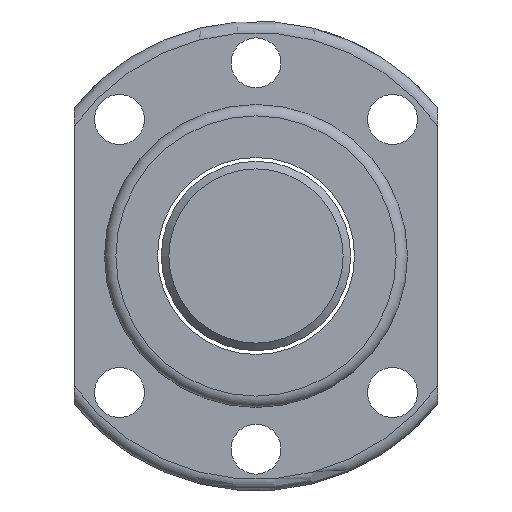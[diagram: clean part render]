
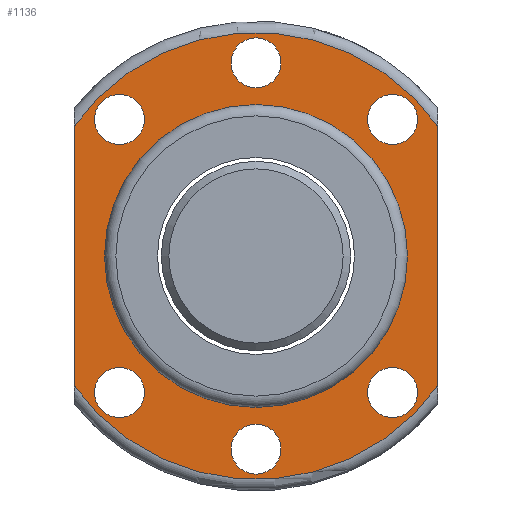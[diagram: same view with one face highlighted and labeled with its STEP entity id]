
A CAD part, left-side view. The second image highlights one B-rep face of the part: STEP entity #1136.
In plain terms, the highlighted planar face has unit normal (-1, 0, 0).
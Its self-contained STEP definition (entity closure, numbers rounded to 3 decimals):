
#23 = DIRECTION ( 'NONE',  ( -1., 0., 0. ) ) ;
#25 = EDGE_CURVE ( 'NONE', #107, #107, #1950, .T. ) ;
#39 = DIRECTION ( 'NONE',  ( -1., 0., 0. ) ) ;
#65 = EDGE_LOOP ( 'NONE', ( #949 ) ) ;
#74 = DIRECTION ( 'NONE',  ( 0., 0., 1. ) ) ;
#80 = DIRECTION ( 'NONE',  ( -1., 0., 0. ) ) ;
#89 = VERTEX_POINT ( 'NONE', #1052 ) ;
#107 = VERTEX_POINT ( 'NONE', #2961 ) ;
#127 = EDGE_CURVE ( 'NONE', #89, #89, #1413, .T. ) ;
#173 = VERTEX_POINT ( 'NONE', #958 ) ;
#182 = CARTESIAN_POINT ( 'NONE',  ( -25., 14.731, 18.031 ) ) ;
#190 = EDGE_CURVE ( 'NONE', #1500, #1500, #2807, .T. ) ;
#219 = AXIS2_PLACEMENT_3D ( 'NONE', #3032, #2287, #2496 ) ;
#225 = ORIENTED_EDGE ( 'NONE', *, *, #127, .F. ) ;
#281 = DIRECTION ( 'NONE',  ( 0., 0., -1. ) ) ;
#300 = ORIENTED_EDGE ( 'NONE', *, *, #2562, .F. ) ;
#317 = EDGE_LOOP ( 'NONE', ( #2686, #1896, #1884, #2736 ) ) ;
#331 = CARTESIAN_POINT ( 'NONE',  ( -25., 0., -25.5 ) ) ;
#349 = DIRECTION ( 'NONE',  ( -1., 0., 0. ) ) ;
#360 = EDGE_CURVE ( 'NONE', #2817, #2817, #2851, .T. ) ;
#374 = AXIS2_PLACEMENT_3D ( 'NONE', #575, #80, #1698 ) ;
#400 = DIRECTION ( 'NONE',  ( 0., -1., 0. ) ) ;
#435 = VERTEX_POINT ( 'NONE', #1125 ) ;
#472 = CIRCLE ( 'NONE', #374, 3.3 ) ;
#500 = CARTESIAN_POINT ( 'NONE',  ( -25., 0., 0. ) ) ;
#518 = VECTOR ( 'NONE', #281, 1000. ) ;
#524 = DIRECTION ( 'NONE',  ( 1., 0., 0. ) ) ;
#549 = DIRECTION ( 'NONE',  ( 0., -1., 0. ) ) ;
#575 = CARTESIAN_POINT ( 'NONE',  ( -25., 0., 25.5 ) ) ;
#590 = EDGE_CURVE ( 'NONE', #173, #866, #2866, .T. ) ;
#613 = AXIS2_PLACEMENT_3D ( 'NONE', #915, #2072, #400 ) ;
#623 = EDGE_CURVE ( 'NONE', #1628, #1196, #2682, .T. ) ;
#626 = AXIS2_PLACEMENT_3D ( 'NONE', #746, #524, #1735 ) ;
#746 = CARTESIAN_POINT ( 'NONE',  ( -25., 0., 0. ) ) ;
#827 = CIRCLE ( 'NONE', #613, 29.5 ) ;
#866 = VERTEX_POINT ( 'NONE', #2161 ) ;
#884 = ORIENTED_EDGE ( 'NONE', *, *, #190, .F. ) ;
#895 = FACE_BOUND ( 'NONE', #2485, .T. ) ;
#908 = FACE_OUTER_BOUND ( 'NONE', #317, .T. ) ;
#911 = EDGE_CURVE ( 'NONE', #3001, #3001, #472, .T. ) ;
#915 = CARTESIAN_POINT ( 'NONE',  ( -25., 0., 0. ) ) ;
#939 = CARTESIAN_POINT ( 'NONE',  ( -25., -3.3, 25.5 ) ) ;
#943 = DIRECTION ( 'NONE',  ( 0., -1., 0. ) ) ;
#949 = ORIENTED_EDGE ( 'NONE', *, *, #360, .F. ) ;
#958 = CARTESIAN_POINT ( 'NONE',  ( -25., -24., 17.154 ) ) ;
#972 = DIRECTION ( 'NONE',  ( -1., 0., 0. ) ) ;
#986 = DIRECTION ( 'NONE',  ( 0., -1., 0. ) ) ;
#1031 = CARTESIAN_POINT ( 'NONE',  ( -25., 24., -17.154 ) ) ;
#1052 = CARTESIAN_POINT ( 'NONE',  ( -25., 14.731, -18.031 ) ) ;
#1071 = AXIS2_PLACEMENT_3D ( 'NONE', #1623, #2349, #943 ) ;
#1110 = CARTESIAN_POINT ( 'NONE',  ( -25., -3.3, -25.5 ) ) ;
#1112 = FACE_BOUND ( 'NONE', #1777, .T. ) ;
#1125 = CARTESIAN_POINT ( 'NONE',  ( -25., -21.331, 18.031 ) ) ;
#1136 = ADVANCED_FACE ( 'NONE', ( #2526, #1112, #895, #1349, #1362, #1551, #1376, #908 ), #2082, .T. ) ;
#1196 = VERTEX_POINT ( 'NONE', #2511 ) ;
#1225 = ORIENTED_EDGE ( 'NONE', *, *, #911, .F. ) ;
#1349 = FACE_BOUND ( 'NONE', #2839, .T. ) ;
#1362 = FACE_BOUND ( 'NONE', #1915, .T. ) ;
#1374 = VERTEX_POINT ( 'NONE', #1110 ) ;
#1376 = FACE_BOUND ( 'NONE', #1996, .T. ) ;
#1393 = CARTESIAN_POINT ( 'NONE',  ( -25., -18.031, -18.031 ) ) ;
#1413 = CIRCLE ( 'NONE', #1071, 3.3 ) ;
#1500 = VERTEX_POINT ( 'NONE', #2494 ) ;
#1551 = FACE_BOUND ( 'NONE', #65, .T. ) ;
#1623 = CARTESIAN_POINT ( 'NONE',  ( -25., 18.031, -18.031 ) ) ;
#1628 = VERTEX_POINT ( 'NONE', #1031 ) ;
#1698 = DIRECTION ( 'NONE',  ( 0., -1., 0. ) ) ;
#1708 = CARTESIAN_POINT ( 'NONE',  ( -25., 24., 0. ) ) ;
#1725 = DIRECTION ( 'NONE',  ( 0., -1., 0. ) ) ;
#1735 = DIRECTION ( 'NONE',  ( 0., 1., 0. ) ) ;
#1760 = AXIS2_PLACEMENT_3D ( 'NONE', #2880, #39, #1725 ) ;
#1777 = EDGE_LOOP ( 'NONE', ( #884 ) ) ;
#1851 = VECTOR ( 'NONE', #74, 1000. ) ;
#1884 = ORIENTED_EDGE ( 'NONE', *, *, #623, .F. ) ;
#1896 = ORIENTED_EDGE ( 'NONE', *, *, #2567, .T. ) ;
#1910 = DIRECTION ( 'NONE',  ( 0., -1., 0. ) ) ;
#1915 = EDGE_LOOP ( 'NONE', ( #225 ) ) ;
#1922 = CIRCLE ( 'NONE', #2030, 29.5 ) ;
#1950 = CIRCLE ( 'NONE', #626, 20. ) ;
#1978 = AXIS2_PLACEMENT_3D ( 'NONE', #331, #349, #549 ) ;
#1996 = EDGE_LOOP ( 'NONE', ( #3072 ) ) ;
#2030 = AXIS2_PLACEMENT_3D ( 'NONE', #500, #23, #986 ) ;
#2072 = DIRECTION ( 'NONE',  ( -1., 0., 0. ) ) ;
#2082 = PLANE ( 'NONE',  #219 ) ;
#2097 = DIRECTION ( 'NONE',  ( -1., 0., 0. ) ) ;
#2116 = EDGE_LOOP ( 'NONE', ( #300 ) ) ;
#2140 = CARTESIAN_POINT ( 'NONE',  ( -25., -18.031, 18.031 ) ) ;
#2161 = CARTESIAN_POINT ( 'NONE',  ( -25., -24., -17.154 ) ) ;
#2265 = EDGE_CURVE ( 'NONE', #1628, #866, #827, .T. ) ;
#2287 = DIRECTION ( 'NONE',  ( -1., 0., 0. ) ) ;
#2349 = DIRECTION ( 'NONE',  ( -1., 0., 0. ) ) ;
#2383 = ORIENTED_EDGE ( 'NONE', *, *, #3040, .F. ) ;
#2410 = CARTESIAN_POINT ( 'NONE',  ( -25., -24., 0. ) ) ;
#2485 = EDGE_LOOP ( 'NONE', ( #2383 ) ) ;
#2494 = CARTESIAN_POINT ( 'NONE',  ( -25., -21.331, -18.031 ) ) ;
#2496 = DIRECTION ( 'NONE',  ( 0., 1., 0. ) ) ;
#2511 = CARTESIAN_POINT ( 'NONE',  ( -25., 24., 17.154 ) ) ;
#2526 = FACE_BOUND ( 'NONE', #2116, .T. ) ;
#2562 = EDGE_CURVE ( 'NONE', #435, #435, #2628, .T. ) ;
#2567 = EDGE_CURVE ( 'NONE', #173, #1196, #1922, .T. ) ;
#2580 = AXIS2_PLACEMENT_3D ( 'NONE', #2140, #972, #1910 ) ;
#2584 = CIRCLE ( 'NONE', #1978, 3.3 ) ;
#2628 = CIRCLE ( 'NONE', #2580, 3.3 ) ;
#2682 = LINE ( 'NONE', #1708, #1851 ) ;
#2686 = ORIENTED_EDGE ( 'NONE', *, *, #590, .F. ) ;
#2736 = ORIENTED_EDGE ( 'NONE', *, *, #2265, .T. ) ;
#2807 = CIRCLE ( 'NONE', #2996, 3.3 ) ;
#2817 = VERTEX_POINT ( 'NONE', #182 ) ;
#2839 = EDGE_LOOP ( 'NONE', ( #1225 ) ) ;
#2851 = CIRCLE ( 'NONE', #1760, 3.3 ) ;
#2866 = LINE ( 'NONE', #2410, #518 ) ;
#2880 = CARTESIAN_POINT ( 'NONE',  ( -25., 18.031, 18.031 ) ) ;
#2961 = CARTESIAN_POINT ( 'NONE',  ( -25., 20., 0. ) ) ;
#2996 = AXIS2_PLACEMENT_3D ( 'NONE', #1393, #2097, #3050 ) ;
#3001 = VERTEX_POINT ( 'NONE', #939 ) ;
#3032 = CARTESIAN_POINT ( 'NONE',  ( -25., 24.75, 0. ) ) ;
#3040 = EDGE_CURVE ( 'NONE', #1374, #1374, #2584, .T. ) ;
#3050 = DIRECTION ( 'NONE',  ( 0., -1., 0. ) ) ;
#3072 = ORIENTED_EDGE ( 'NONE', *, *, #25, .T. ) ;
